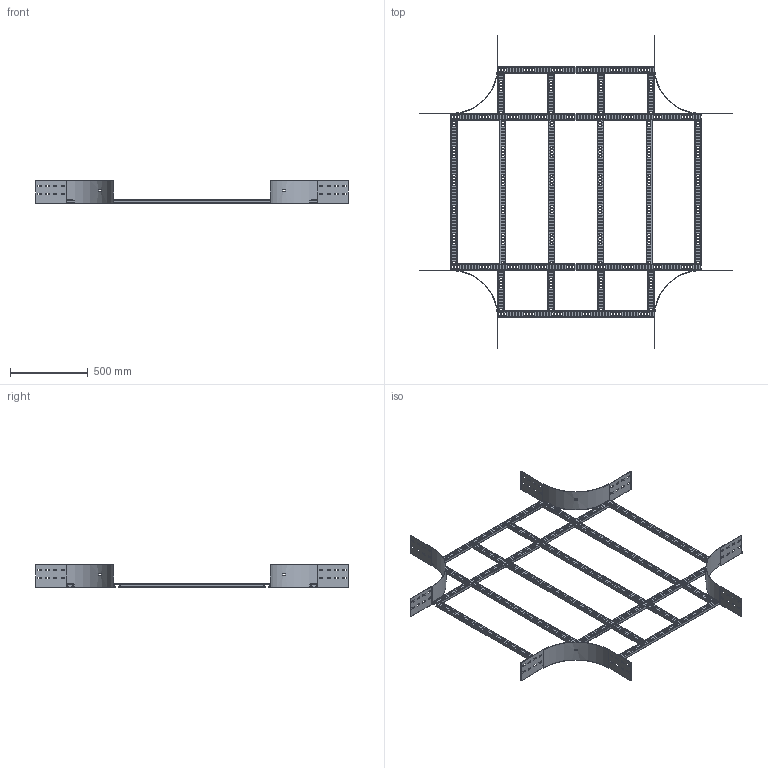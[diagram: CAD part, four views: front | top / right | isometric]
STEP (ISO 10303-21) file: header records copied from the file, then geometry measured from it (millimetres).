
FILE_DESCRIPTION(/* description */ ('','CAx-IF Rec.Pracs.---Representation and Presentation of Product Manufacturing Information (PMI)---4.0---2014-10-13'),/* implementation_level */ '2;1');
FILE_NAME(/* name */ 'Eurostrut_ECO150-1000-300_Crossover for Cable Ladder ECL.step',/* time_stamp */ '2026-09-03T13:39:00+02:00',/* author */ (''),/* organization */ (''),/* preprocessor_version */ 'ST-DEVELOPER v20.1',/* originating_system */ 'Autodesk Revit 2027 27.2.0.39',/* authorisation */ '');
FILE_SCHEMA (('AP242_MANAGED_MODEL_BASED_3D_ENGINEERING_MIM_LF { 1 0 10303 442 2 1 4 }'));
Products named in the file (10): TopLevelAssembly; Sweep; Sweep_1; Sweep_2; Sweep_3; Eurostrut_Cable Ladder_Rung_With slots; Eurostrut_Cable Ladder_Rung_With slots_1; Eurostrut_Cable Ladder_Rung Array Straight_Slotted; Eurostrut_Cable Ladder_Rung Array Straight_Slotted_1; Eurostrut_Cable Ladder_Accessory End_54-94-142
Assembly tree (19 placements, depth 2):
  TopLevelAssembly
    Sweep
    Sweep_1
    Eurostrut_Cable Ladder_Rung_With slots  x2
    Eurostrut_Cable Ladder_Rung_With slots_1  x2
    Sweep_2
    Sweep_3
    Eurostrut_Cable Ladder_Rung Array Straight_Slotted
    Eurostrut_Cable Ladder_Rung Array Straight_Slotted_1  x2
    Eurostrut_Cable Ladder_Accessory End_54-94-142  x8
Bounding box: 2011 x 2011 x 142 mm (x, y, z)
Volume: 3018890.1 mm3; surface area: 3206021.2 mm2
Topology: 30 solids, 30 shells, 3236 faces, 9528 edges, 6352 vertices
Faces by surface type: plane 1872, bspline 1284, cylinder 80
Entity records: 99274 total; most frequent: CARTESIAN_POINT 41033, ORIENTED_EDGE 12576, DIRECTION 10734, EDGE_CURVE 6288, LINE 4324, VECTOR 4324, VERTEX_POINT 4192, AXIS2_PLACEMENT_3D 3205
